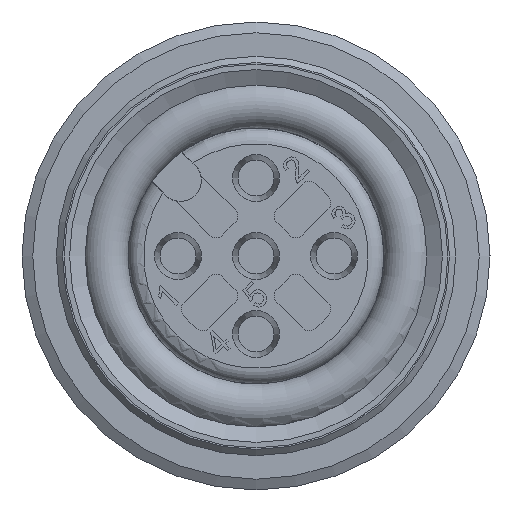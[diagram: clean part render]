
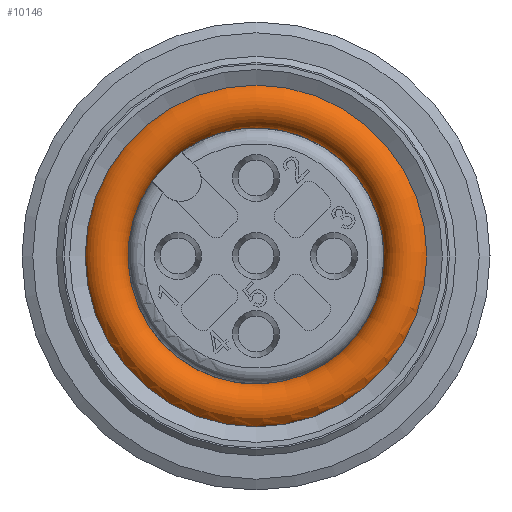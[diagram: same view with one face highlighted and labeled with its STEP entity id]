
A CAD part, left-side view. The second image highlights one B-rep face of the part: STEP entity #10146.
In plain terms, the highlighted toroidal (fillet/blend) face has major radius 4.845 mm and minor radius 0.75 mm.
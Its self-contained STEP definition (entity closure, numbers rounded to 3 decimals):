
#207=TOROIDAL_SURFACE('',#10915,4.845,0.75);
#2297=FACE_OUTER_BOUND('',#2895,.T.);
#2895=EDGE_LOOP('',(#7123,#7124,#7125,#7126,#7127,#7128,#7129,#7130,#7131,
#7132,#7133,#7134,#7135,#7136,#7137));
#3403=CIRCLE('',#10633,5.475);
#3404=CIRCLE('',#10634,5.475);
#3405=CIRCLE('',#10635,5.475);
#3574=CIRCLE('',#10916,0.75);
#3575=CIRCLE('',#10917,4.1);
#3576=CIRCLE('',#10918,0.74);
#3577=CIRCLE('',#10919,4.1);
#3578=CIRCLE('',#10920,0.75);
#3579=CIRCLE('',#10921,4.723);
#3580=CIRCLE('',#10922,4.723);
#3581=CIRCLE('',#10923,4.1);
#3582=CIRCLE('',#10924,0.74);
#3583=CIRCLE('',#10925,4.1);
#4012=VERTEX_POINT('',#14623);
#4013=VERTEX_POINT('',#14624);
#4014=VERTEX_POINT('',#14626);
#4214=VERTEX_POINT('',#19580);
#4215=VERTEX_POINT('',#19582);
#4216=VERTEX_POINT('',#19584);
#4217=VERTEX_POINT('',#19586);
#4218=VERTEX_POINT('',#19588);
#4219=VERTEX_POINT('',#19590);
#4220=VERTEX_POINT('',#19593);
#4221=VERTEX_POINT('',#19595);
#4980=EDGE_CURVE('',#4012,#4013,#3403,.T.);
#4981=EDGE_CURVE('',#4014,#4012,#3404,.T.);
#4982=EDGE_CURVE('',#4013,#4014,#3405,.T.);
#5303=EDGE_CURVE('',#4014,#4214,#3574,.T.);
#5304=EDGE_CURVE('',#4215,#4214,#3575,.T.);
#5305=EDGE_CURVE('',#4215,#4216,#3576,.T.);
#5306=EDGE_CURVE('',#4217,#4216,#3577,.T.);
#5307=EDGE_CURVE('',#4217,#4218,#3578,.T.);
#5308=EDGE_CURVE('',#4219,#4218,#3579,.T.);
#5309=EDGE_CURVE('',#4218,#4219,#3580,.T.);
#5310=EDGE_CURVE('',#4220,#4217,#3581,.T.);
#5311=EDGE_CURVE('',#4220,#4221,#3582,.T.);
#5312=EDGE_CURVE('',#4214,#4221,#3583,.T.);
#7123=ORIENTED_EDGE('',*,*,#4980,.T.);
#7124=ORIENTED_EDGE('',*,*,#4982,.T.);
#7125=ORIENTED_EDGE('',*,*,#5303,.T.);
#7126=ORIENTED_EDGE('',*,*,#5304,.F.);
#7127=ORIENTED_EDGE('',*,*,#5305,.T.);
#7128=ORIENTED_EDGE('',*,*,#5306,.F.);
#7129=ORIENTED_EDGE('',*,*,#5307,.T.);
#7130=ORIENTED_EDGE('',*,*,#5308,.F.);
#7131=ORIENTED_EDGE('',*,*,#5309,.F.);
#7132=ORIENTED_EDGE('',*,*,#5307,.F.);
#7133=ORIENTED_EDGE('',*,*,#5310,.F.);
#7134=ORIENTED_EDGE('',*,*,#5311,.T.);
#7135=ORIENTED_EDGE('',*,*,#5312,.F.);
#7136=ORIENTED_EDGE('',*,*,#5303,.F.);
#7137=ORIENTED_EDGE('',*,*,#4981,.T.);
#10146=ADVANCED_FACE('',(#2297),#207,.T.);
#10633=AXIS2_PLACEMENT_3D('',#14625,#11781,#11782);
#10634=AXIS2_PLACEMENT_3D('',#14627,#11783,#11784);
#10635=AXIS2_PLACEMENT_3D('',#14628,#11785,#11786);
#10915=AXIS2_PLACEMENT_3D('',#19579,#12429,#12430);
#10916=AXIS2_PLACEMENT_3D('',#19581,#12431,#12432);
#10917=AXIS2_PLACEMENT_3D('',#19583,#12433,#12434);
#10918=AXIS2_PLACEMENT_3D('',#19585,#12435,#12436);
#10919=AXIS2_PLACEMENT_3D('',#19587,#12437,#12438);
#10920=AXIS2_PLACEMENT_3D('',#19589,#12439,#12440);
#10921=AXIS2_PLACEMENT_3D('',#19591,#12441,#12442);
#10922=AXIS2_PLACEMENT_3D('',#19592,#12443,#12444);
#10923=AXIS2_PLACEMENT_3D('',#19594,#12445,#12446);
#10924=AXIS2_PLACEMENT_3D('',#19596,#12447,#12448);
#10925=AXIS2_PLACEMENT_3D('',#19597,#12449,#12450);
#11781=DIRECTION('center_axis',(-1.,0.,0.));
#11782=DIRECTION('ref_axis',(0.,0.,-1.));
#11783=DIRECTION('center_axis',(-1.,0.,0.));
#11784=DIRECTION('ref_axis',(0.,0.,-1.));
#11785=DIRECTION('center_axis',(-1.,0.,0.));
#11786=DIRECTION('ref_axis',(0.,0.,-1.));
#12429=DIRECTION('center_axis',(1.,0.,0.));
#12430=DIRECTION('ref_axis',(0.,0.,-1.));
#12431=DIRECTION('center_axis',(0.,-1.,0.));
#12432=DIRECTION('ref_axis',(0.,0.,1.));
#12433=DIRECTION('center_axis',(-1.,0.,0.));
#12434=DIRECTION('ref_axis',(0.,0.,-1.));
#12435=DIRECTION('center_axis',(0.,-0.707,
0.707));
#12436=DIRECTION('ref_axis',(0.117,-0.702,-0.702));
#12437=DIRECTION('center_axis',(1.,0.,0.));
#12438=DIRECTION('ref_axis',(0.,0.,1.));
#12439=DIRECTION('center_axis',(0.,-1.,0.));
#12440=DIRECTION('ref_axis',(0.,0.,1.));
#12441=DIRECTION('center_axis',(-1.,0.,0.));
#12442=DIRECTION('ref_axis',(0.,0.,-1.));
#12443=DIRECTION('center_axis',(-1.,0.,0.));
#12444=DIRECTION('ref_axis',(0.,0.,-1.));
#12445=DIRECTION('center_axis',(1.,0.,0.));
#12446=DIRECTION('ref_axis',(0.,0.,1.));
#12447=DIRECTION('center_axis',(0.,0.707,
-0.707));
#12448=DIRECTION('ref_axis',(-0.117,-0.702,-0.702));
#12449=DIRECTION('center_axis',(-1.,0.,0.));
#12450=DIRECTION('ref_axis',(0.,0.,-1.));
#14623=CARTESIAN_POINT('',(8.103,0.,-5.475));
#14624=CARTESIAN_POINT('',(8.103,-5.475,0.));
#14625=CARTESIAN_POINT('Origin',(8.103,0.,0.));
#14626=CARTESIAN_POINT('',(8.103,0.,5.475));
#14627=CARTESIAN_POINT('Origin',(8.103,0.,0.));
#14628=CARTESIAN_POINT('Origin',(8.103,0.,0.));
#19579=CARTESIAN_POINT('Origin',(8.51,0.,0.));
#19580=CARTESIAN_POINT('',(8.424,0.,4.1));
#19581=CARTESIAN_POINT('Origin',(8.51,0.,4.845));
#19582=CARTESIAN_POINT('',(8.424,3.337,2.382));
#19583=CARTESIAN_POINT('Origin',(8.424,0.,0.));
#19584=CARTESIAN_POINT('',(8.596,3.337,2.382));
#19585=CARTESIAN_POINT('Origin',(8.51,3.856,2.902));
#19586=CARTESIAN_POINT('',(8.596,0.,4.1));
#19587=CARTESIAN_POINT('Origin',(8.596,0.,0.));
#19588=CARTESIAN_POINT('',(9.25,0.,4.723));
#19589=CARTESIAN_POINT('Origin',(8.51,0.,4.845));
#19590=CARTESIAN_POINT('',(9.25,0.,-4.723));
#19591=CARTESIAN_POINT('Origin',(9.25,0.,0.));
#19592=CARTESIAN_POINT('Origin',(9.25,0.,0.));
#19593=CARTESIAN_POINT('',(8.596,2.382,3.337));
#19594=CARTESIAN_POINT('Origin',(8.596,0.,0.));
#19595=CARTESIAN_POINT('',(8.424,2.382,3.337));
#19596=CARTESIAN_POINT('Origin',(8.51,2.902,3.856));
#19597=CARTESIAN_POINT('Origin',(8.424,0.,0.));
